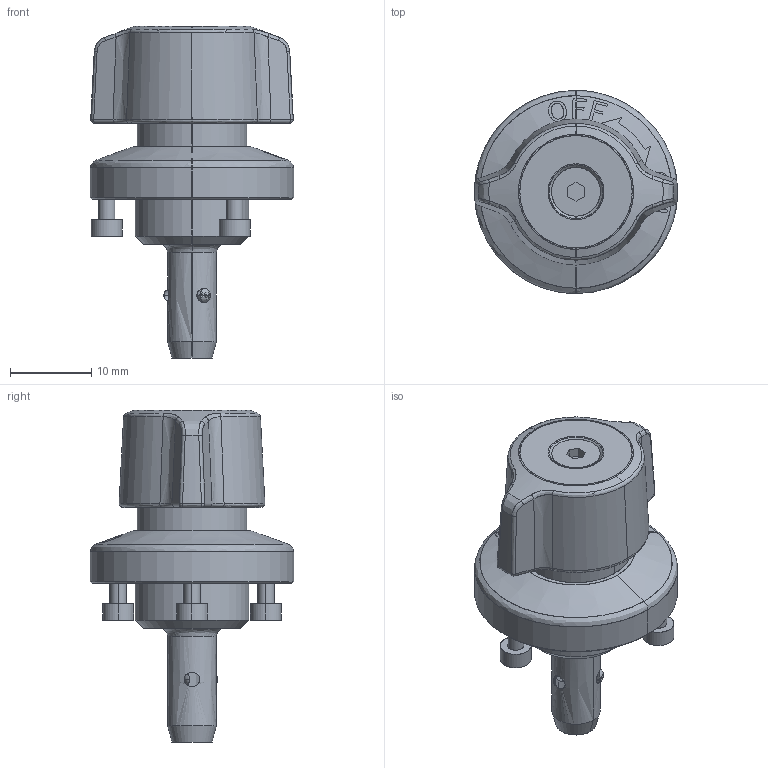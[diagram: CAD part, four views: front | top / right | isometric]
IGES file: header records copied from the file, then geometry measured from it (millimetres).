
Start section: SolidWorks IGES file using analytic representation for surfaces
Global section: file name: X:\11_SW2020-Inv2020\00_全2021-11新製品まで\q\QCWE0625-10\qcwe0625-10.IGS; native system: SolidWorks 2020; preprocessor: SolidWorks 2020; author: ImaoCorp; date: 211021.172733; units: millimetre
Bounding box: 25 x 25 x 40.85 mm (x, y, z)
Surface area: 4259.4 mm2 (no closed solid volume)
Topology: 0 solids, 0 shells, 261 faces, 3141 edges, 3137 vertices
Faces by surface type: bspline 165, revolution 96
